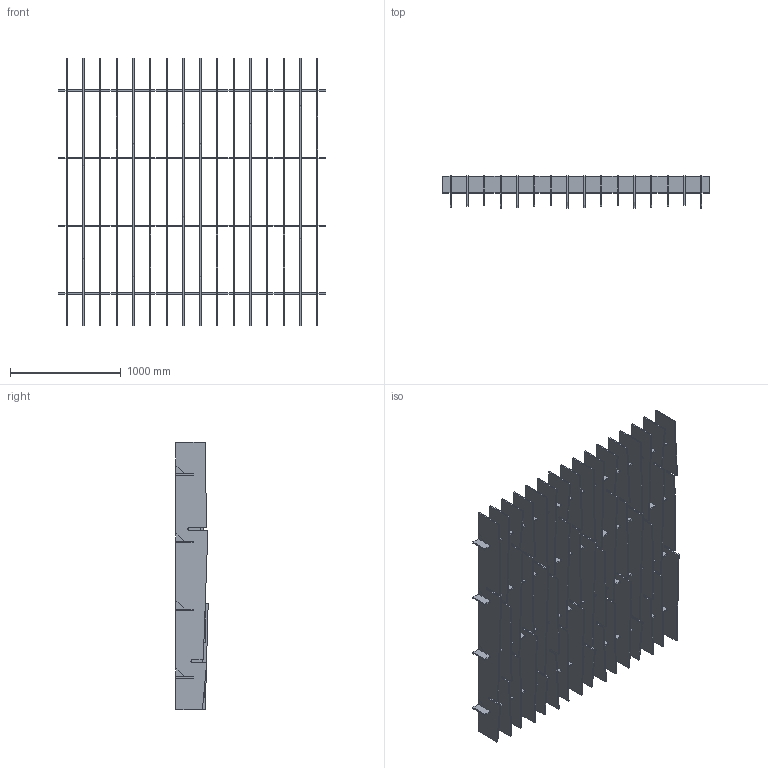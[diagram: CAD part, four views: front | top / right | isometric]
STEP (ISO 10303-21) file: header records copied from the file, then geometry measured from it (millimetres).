
FILE_DESCRIPTION(/* description */ (''),/* implementation_level */ '2;1');
FILE_NAME(/* name */ 'Y:\Design and Engineering\MaterialLogiq\CAD ASSETS\MASTER\BAFFLE\WEB ASSETS\PET BAFFLE_16FIN_8x8_10_SKYLINE.stp',/* time_stamp */ '2023-11-16T12:05:03-06:00',/* author */ ('Grant Baker'),/* organization */ (''),/* preprocessor_version */ 'ST-DEVELOPER v19',/* originating_system */ 'Autodesk Inventor 2023',/* authorisation */ '');
FILE_SCHEMA (('AUTOMOTIVE_DESIGN { 1 0 10303 214 3 1 1 }'));
Length unit declared in the file: inch
Products named in the file (6): PET BAFFLE_PARAMETRIC_11.02.2023; PET BAFFLE_BEAM; PET BAFFLE_FIN_96in_SKYLINE-1; PET BAFFLE_FIN_96in_SKYLINE-3; PET BAFFLE_FIN_96in_SKYLINE-2; PET BAFFLE_FIN_96in_SKYLINE-4
Assembly tree (20 placements, depth 2):
  PET BAFFLE_PARAMETRIC_11.02.2023
    PET BAFFLE_BEAM  x4
    PET BAFFLE_FIN_96in_SKYLINE-1  x4
    PET BAFFLE_FIN_96in_SKYLINE-3  x4
    PET BAFFLE_FIN_96in_SKYLINE-2  x4
    PET BAFFLE_FIN_96in_SKYLINE-4  x4
Bounding box: 2413 x 291.96 x 2413 mm (x, y, z)
Volume: 135506757 mm3; surface area: 23962157 mm2
Topology: 84 solids, 84 shells, 1680 faces, 4536 edges, 3024 vertices
Faces by surface type: plane 1624, cylinder 56
Entity records: 13253 total; most frequent: CARTESIAN_POINT 2336, ORIENTED_EDGE 2268, DIRECTION 2054, EDGE_CURVE 1134, LINE 1106, VECTOR 1106, VERTEX_POINT 756, AXIS2_PLACEMENT_3D 474
